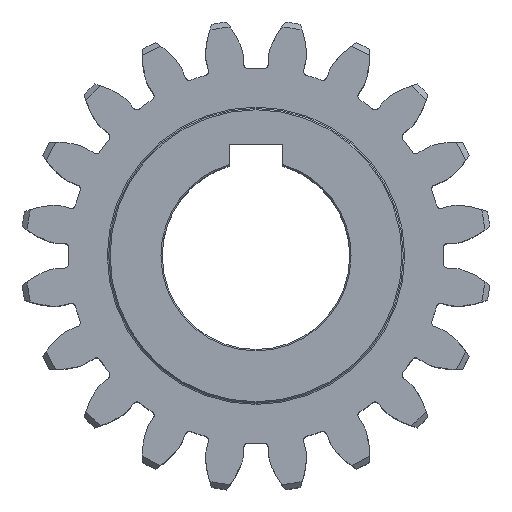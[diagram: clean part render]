
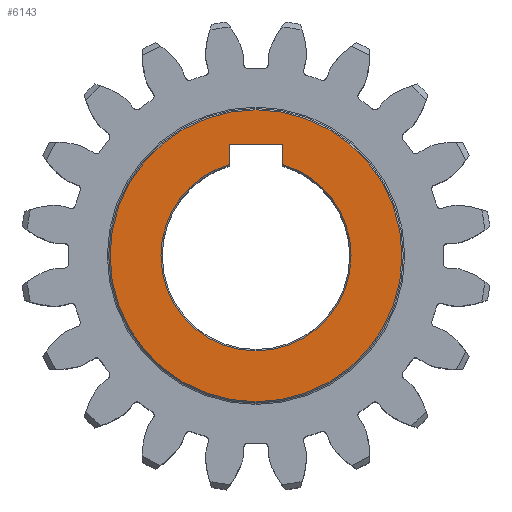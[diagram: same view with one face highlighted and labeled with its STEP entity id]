
A CAD part, top view. The second image highlights one B-rep face of the part: STEP entity #6143.
In plain terms, the highlighted planar face has unit normal (0, 0, 1).
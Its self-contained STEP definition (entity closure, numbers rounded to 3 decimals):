
#117 = CARTESIAN_POINT ( 'NONE',  ( 5., 20.8, 25. ) ) ;
#398 = DIRECTION ( 'NONE',  ( 0., 0., -1. ) ) ;
#602 = CARTESIAN_POINT ( 'NONE',  ( -17.75, 0., 25. ) ) ;
#1305 = VERTEX_POINT ( 'NONE', #2346 ) ;
#1670 = CIRCLE ( 'NONE', #6622, 27.25 ) ;
#2153 = LINE ( 'NONE', #117, #4238 ) ;
#2232 = ORIENTED_EDGE ( 'NONE', *, *, #11245, .T. ) ;
#2304 = CARTESIAN_POINT ( 'NONE',  ( 27.25, 0., 25. ) ) ;
#2313 = EDGE_CURVE ( 'NONE', #6971, #1305, #2153, .T. ) ;
#2346 = CARTESIAN_POINT ( 'NONE',  ( 5., 20.8, 25. ) ) ;
#2457 = DIRECTION ( 'NONE',  ( 0., -1., 0. ) ) ;
#2523 = EDGE_LOOP ( 'NONE', ( #11938, #4826, #7716, #8578, #9436, #9761 ) ) ;
#2533 = CARTESIAN_POINT ( 'NONE',  ( -5., 20.8, 25. ) ) ;
#2925 = FACE_BOUND ( 'NONE', #2523, .T. ) ;
#3111 = DIRECTION ( 'NONE',  ( 0., 0., -1. ) ) ;
#3224 = AXIS2_PLACEMENT_3D ( 'NONE', #7278, #398, #7474 ) ;
#4178 = DIRECTION ( 'NONE',  ( 1., 0., 0. ) ) ;
#4238 = VECTOR ( 'NONE', #9222, 1000. ) ;
#4624 = LINE ( 'NONE', #11688, #9832 ) ;
#4679 = CARTESIAN_POINT ( 'NONE',  ( 0., 0., 25. ) ) ;
#4826 = ORIENTED_EDGE ( 'NONE', *, *, #9833, .T. ) ;
#4892 = PLANE ( 'NONE',  #4903 ) ;
#4903 = AXIS2_PLACEMENT_3D ( 'NONE', #9995, #6031, #8991 ) ;
#5064 = LINE ( 'NONE', #9167, #5617 ) ;
#5171 = CIRCLE ( 'NONE', #11622, 27.25 ) ;
#5201 = CARTESIAN_POINT ( 'NONE',  ( 0., 0., 25. ) ) ;
#5617 = VECTOR ( 'NONE', #13279, 1000. ) ;
#5895 = FACE_OUTER_BOUND ( 'NONE', #6598, .T. ) ;
#6031 = DIRECTION ( 'NONE',  ( 0., 0., 1. ) ) ;
#6076 = EDGE_CURVE ( 'NONE', #1305, #9981, #4624, .T. ) ;
#6143 = ADVANCED_FACE ( 'NONE', ( #5895, #2925 ), #4892, .T. ) ;
#6309 = EDGE_CURVE ( 'NONE', #10290, #8506, #1670, .T. ) ;
#6598 = EDGE_LOOP ( 'NONE', ( #2232, #12362 ) ) ;
#6622 = AXIS2_PLACEMENT_3D ( 'NONE', #4679, #11737, #6692 ) ;
#6692 = DIRECTION ( 'NONE',  ( 1., 0., 0. ) ) ;
#6846 = AXIS2_PLACEMENT_3D ( 'NONE', #5201, #3111, #10315 ) ;
#6909 = CIRCLE ( 'NONE', #8626, 17.75 ) ;
#6971 = VERTEX_POINT ( 'NONE', #2533 ) ;
#7135 = CARTESIAN_POINT ( 'NONE',  ( 5., 17.031, 25. ) ) ;
#7278 = CARTESIAN_POINT ( 'NONE',  ( 0., 0., 25. ) ) ;
#7289 = DIRECTION ( 'NONE',  ( 0., 0., 1. ) ) ;
#7294 = EDGE_CURVE ( 'NONE', #7470, #11564, #9205, .T. ) ;
#7354 = CARTESIAN_POINT ( 'NONE',  ( 0., 0., 25. ) ) ;
#7470 = VERTEX_POINT ( 'NONE', #8765 ) ;
#7474 = DIRECTION ( 'NONE',  ( 1., 0., 0. ) ) ;
#7523 = DIRECTION ( 'NONE',  ( 0., 0., -1. ) ) ;
#7716 = ORIENTED_EDGE ( 'NONE', *, *, #7294, .T. ) ;
#8270 = CARTESIAN_POINT ( 'NONE',  ( 0., 0., 25. ) ) ;
#8506 = VERTEX_POINT ( 'NONE', #10600 ) ;
#8578 = ORIENTED_EDGE ( 'NONE', *, *, #12423, .T. ) ;
#8626 = AXIS2_PLACEMENT_3D ( 'NONE', #8270, #7523, #4178 ) ;
#8765 = CARTESIAN_POINT ( 'NONE',  ( 17.75, 0., 25. ) ) ;
#8991 = DIRECTION ( 'NONE',  ( 1., 0., 0. ) ) ;
#9167 = CARTESIAN_POINT ( 'NONE',  ( -5., 14.2, 25. ) ) ;
#9205 = CIRCLE ( 'NONE', #6846, 17.75 ) ;
#9222 = DIRECTION ( 'NONE',  ( 1., 0., 0. ) ) ;
#9236 = CIRCLE ( 'NONE', #3224, 17.75 ) ;
#9376 = DIRECTION ( 'NONE',  ( 1., 0., 0. ) ) ;
#9436 = ORIENTED_EDGE ( 'NONE', *, *, #12083, .T. ) ;
#9761 = ORIENTED_EDGE ( 'NONE', *, *, #2313, .T. ) ;
#9832 = VECTOR ( 'NONE', #2457, 1000. ) ;
#9833 = EDGE_CURVE ( 'NONE', #9981, #7470, #9236, .T. ) ;
#9961 = VERTEX_POINT ( 'NONE', #12123 ) ;
#9981 = VERTEX_POINT ( 'NONE', #7135 ) ;
#9995 = CARTESIAN_POINT ( 'NONE',  ( 0., 0., 25. ) ) ;
#10290 = VERTEX_POINT ( 'NONE', #2304 ) ;
#10315 = DIRECTION ( 'NONE',  ( 1., 0., 0. ) ) ;
#10600 = CARTESIAN_POINT ( 'NONE',  ( -27.25, 0., 25. ) ) ;
#11245 = EDGE_CURVE ( 'NONE', #8506, #10290, #5171, .T. ) ;
#11564 = VERTEX_POINT ( 'NONE', #602 ) ;
#11622 = AXIS2_PLACEMENT_3D ( 'NONE', #7354, #7289, #9376 ) ;
#11688 = CARTESIAN_POINT ( 'NONE',  ( 5., 14.2, 25. ) ) ;
#11737 = DIRECTION ( 'NONE',  ( 0., 0., 1. ) ) ;
#11938 = ORIENTED_EDGE ( 'NONE', *, *, #6076, .T. ) ;
#12083 = EDGE_CURVE ( 'NONE', #9961, #6971, #5064, .T. ) ;
#12123 = CARTESIAN_POINT ( 'NONE',  ( -5., 17.031, 25. ) ) ;
#12362 = ORIENTED_EDGE ( 'NONE', *, *, #6309, .T. ) ;
#12423 = EDGE_CURVE ( 'NONE', #11564, #9961, #6909, .T. ) ;
#13279 = DIRECTION ( 'NONE',  ( 0., 1., 0. ) ) ;
